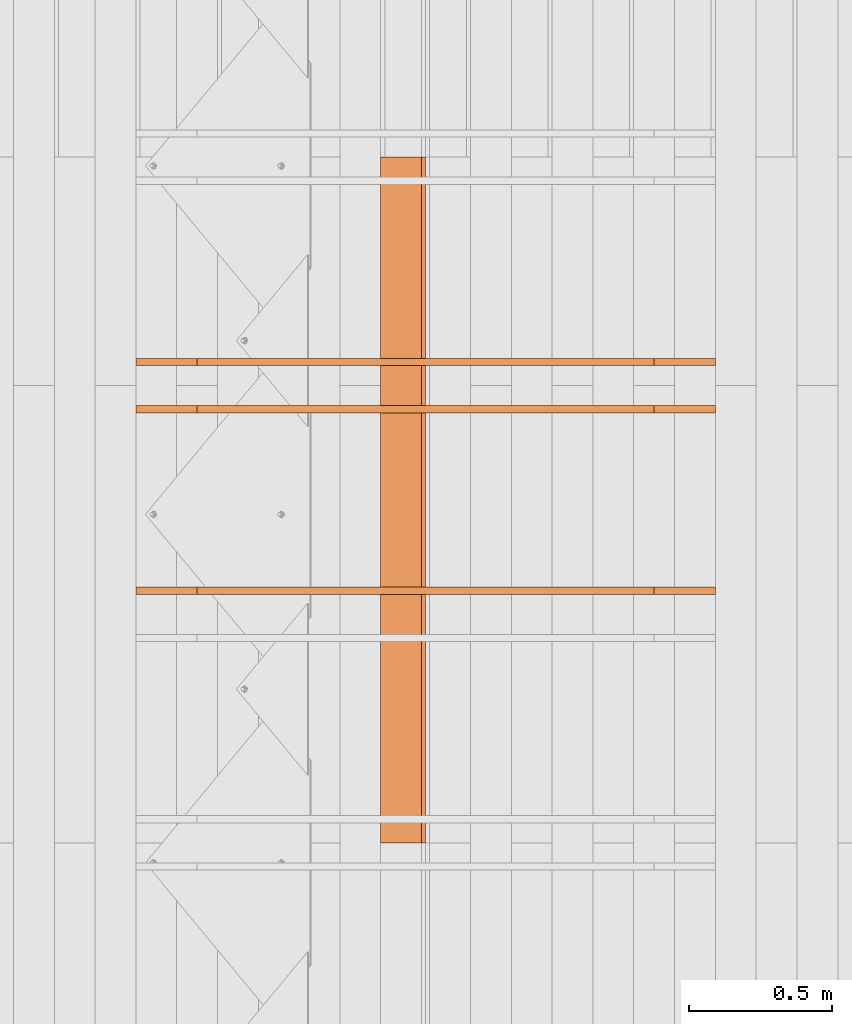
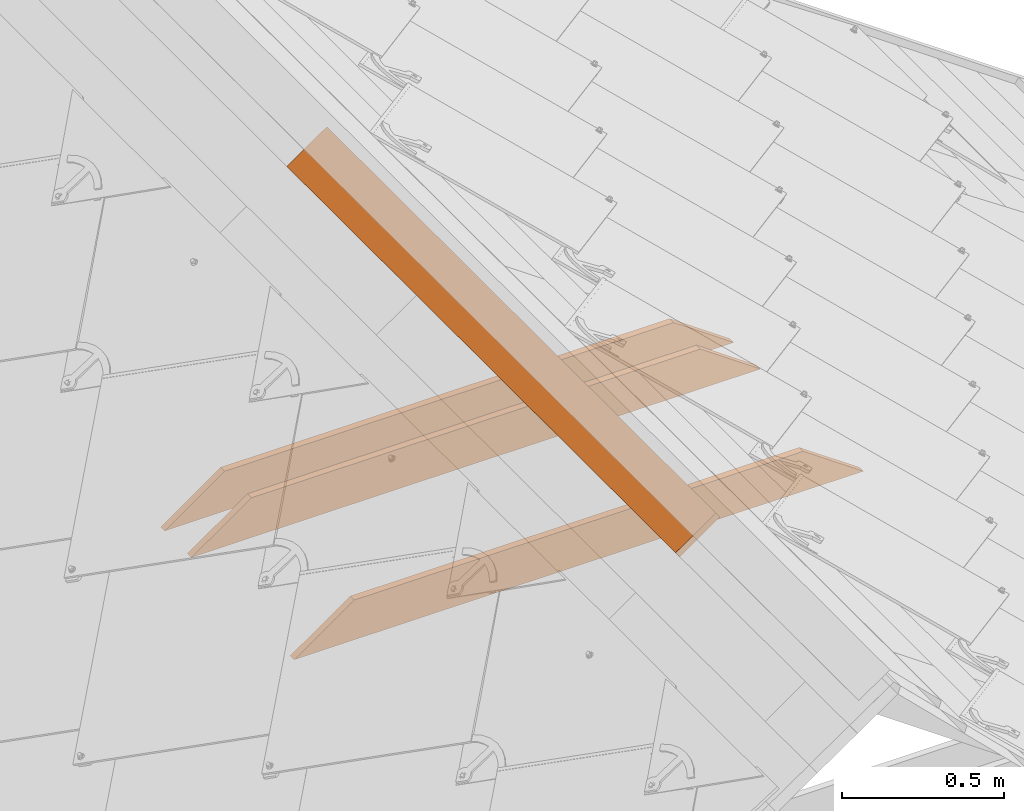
# One storey, part 58 of 133: 4 proxies, 1 element without a shape of its own.
"""IFC2X3 building model written with IfcOpenShell, lengths in millimetres."""

from ifc_helpers import new_model, entity, si_unit, converted_unit, derived_unit, direction, frame, frame_2d, origin, place, context, subcontext, project, spatial, polyline, rectangle, outline, extrude, source, transform, mapped, material, type_object, type_shapes, element, aggregate, save


model = new_model("IFC2X3")

# Units and contexts
model_context = context("Model", 3, precision=0.01, world=origin(), true_north=direction((6.12303176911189e-17, 1.0)))
body_context = subcontext(model_context, "Body", "Model", "MODEL_VIEW")
ifc_project = project(units=[si_unit("LENGTHUNIT", "METRE", prefix="MILLI"), si_unit("AREAUNIT", "SQUARE_METRE"), si_unit("VOLUMEUNIT", "CUBIC_METRE"), converted_unit("PLANEANGLEUNIT", "DEGREE", entity("IfcRatioMeasure", 0.0174532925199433), si_unit("PLANEANGLEUNIT", "RADIAN"), dimensions=[0, 0, 0, 0, 0, 0, 0]), si_unit("MASSUNIT", "GRAM", prefix="KILO"), derived_unit("MASSDENSITYUNIT", [(si_unit("MASSUNIT", "GRAM", prefix="KILO"), 1), (si_unit("LENGTHUNIT", "METRE"), -3)]), si_unit("TIMEUNIT", "SECOND"), si_unit("FREQUENCYUNIT", "HERTZ"), si_unit("THERMODYNAMICTEMPERATUREUNIT", "DEGREE_CELSIUS"), derived_unit("THERMALTRANSMITTANCEUNIT", [(si_unit("MASSUNIT", "GRAM", prefix="KILO"), 1), (si_unit("THERMODYNAMICTEMPERATUREUNIT", "KELVIN"), -1), (si_unit("TIMEUNIT", "SECOND"), -3)]), derived_unit("VOLUMETRICFLOWRATEUNIT", [(si_unit("LENGTHUNIT", "METRE"), 3), (si_unit("TIMEUNIT", "SECOND"), -1)]), si_unit("ELECTRICCURRENTUNIT", "AMPERE"), si_unit("ELECTRICVOLTAGEUNIT", "VOLT"), si_unit("POWERUNIT", "WATT"), si_unit("FORCEUNIT", "NEWTON", prefix="KILO"), si_unit("ILLUMINANCEUNIT", "LUX"), si_unit("LUMINOUSFLUXUNIT", "LUMEN"), si_unit("LUMINOUSINTENSITYUNIT", "CANDELA"), derived_unit("USERDEFINED", [(si_unit("MASSUNIT", "GRAM", prefix="KILO"), -1), (si_unit("LENGTHUNIT", "METRE"), -2), (si_unit("TIMEUNIT", "SECOND"), 3), (si_unit("LUMINOUSFLUXUNIT", "LUMEN"), 1)]), derived_unit("LINEARVELOCITYUNIT", [(si_unit("LENGTHUNIT", "METRE"), 1), (si_unit("TIMEUNIT", "SECOND"), -1)]), si_unit("PRESSUREUNIT", "PASCAL"), derived_unit("USERDEFINED", [(si_unit("LENGTHUNIT", "METRE"), -2), (si_unit("MASSUNIT", "GRAM", prefix="KILO"), 1), (si_unit("TIMEUNIT", "SECOND"), -2)])], contexts=[model_context])

# Site, building, storey
site_placement = place(None, origin())
site = spatial("IfcSite", under=ifc_project, at=site_placement, Name="Default", CompositionType="ELEMENT")
building_placement = place(site_placement, origin())
building = spatial("IfcBuilding", under=site, at=building_placement, CompositionType="ELEMENT")
storey_placement = place(building_placement, origin())
storey = spatial("IfcBuildingStorey", under=building, at=storey_placement, Name="Level 1", CompositionType="ELEMENT", Elevation=0.0)

# Assembly, proxies
assembly_placement = place(storey_placement, origin())
assembly = element("IfcElementAssembly", 1, at=assembly_placement, inside=storey, Name="Structural Framing Assembly:Roof Construction Assembly", ObjectType="Structural Framing Assembly:Roof Construction Assembly", AssemblyPlace="NOTDEFINED", PredefinedType="USERDEFINED")
ifc_material = material(Name="Wood - Generic - Wood For Showcase")
building_element_proxy_type_1 = type_object("IfcBuildingElementProxyType", Name="Structural Framing 15", PredefinedType="NOTDEFINED", material=ifc_material)
shared_shape_1 = source(origin(), body_context, "Body", "SweptSolid", [
    extrude(rectangle(XDim=24.9999999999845, YDim=174.344679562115, at=frame_2d((-1.77635683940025e-13, -4.54747350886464e-13), x_axis=(0.0, 1.0))), frame((1128.20180147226, 1525.55080214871, 2760.23940055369), z_axis=(0.0, 1.0, 0.0), x_axis=(-0.819152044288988, 0.0, -0.573576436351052)), (0.0, 0.0, 1.0), 2400.0),
])
type_shapes(building_element_proxy_type_1, [shared_shape_1])
proxy_1_placement = place(assembly_placement, frame((0.0, -2470.0, 0.0)))
proxy_1 = element("IfcBuildingElementProxy", 2, at=proxy_1_placement, type_object=building_element_proxy_type_1, material=ifc_material, Name="Structural Framing 16:Structural Framing 15", ObjectType="Structural Framing 16:Structural Framing 15", context=body_context, shape_type="MappedRepresentation", body=[
    mapped(shared_shape_1, transform((0.0, 0.0, 0.0), scale=1.0)),
])
building_element_proxy_type_2 = type_object("IfcBuildingElementProxyType", Name="Structural Framing 296", PredefinedType="NOTDEFINED", material=ifc_material)
shared_shape_2 = source(origin(), body_context, "Body", "SweptSolid", [
    extrude(outline(polyline([(-1014.04699829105, -75.0), (1014.04699829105, -75.0), (799.824797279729, 75.0), (-799.824797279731, 75.0), (-1014.04699829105, -75.0)])), frame((1206.77890726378, 3760.55080214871, 2164.95664769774), z_axis=(0.0, 1.0, 0.0), x_axis=(-1.0, 0.0, 0.0)), (0.0, 0.0, 1.0), 24.9999999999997),
])
type_shapes(building_element_proxy_type_2, [shared_shape_2])
proxy_2_placement = place(assembly_placement, frame((0.0, -3200.0, 0.0)))
proxy_2 = element("IfcBuildingElementProxy", 3, at=proxy_2_placement, type_object=building_element_proxy_type_2, material=ifc_material, Name="Structural Framing 303:Structural Framing 296", ObjectType="Structural Framing 303:Structural Framing 296", context=body_context, shape_type="MappedRepresentation", body=[
    mapped(shared_shape_2, transform((0.0, 0.0, 0.0), scale=1.0)),
])
building_element_proxy_type_3 = type_object("IfcBuildingElementProxyType", Name="Structural Framing 296", PredefinedType="NOTDEFINED", material=ifc_material)
shared_shape_3 = source(origin(), body_context, "Body", "SweptSolid", [
    extrude(outline(polyline([(-1014.04699829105, -75.0), (1014.04699829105, -75.0), (799.824797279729, 75.0), (-799.824797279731, 75.0), (-1014.04699829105, -75.0)])), frame((1206.77890726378, 2325.55080214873, 2164.95664769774), z_axis=(0.0, 1.0, 0.0), x_axis=(-1.0, 0.0, 0.0)), (0.0, 0.0, 1.0), 25.0),
])
type_shapes(building_element_proxy_type_3, [shared_shape_3])
proxy_3_placement = place(assembly_placement, frame((0.0, -1600.0, 0.0)))
proxy_3 = element("IfcBuildingElementProxy", 4, at=proxy_3_placement, type_object=building_element_proxy_type_3, material=ifc_material, Name="Structural Framing 304:Structural Framing 296", ObjectType="Structural Framing 304:Structural Framing 296", context=body_context, shape_type="MappedRepresentation", body=[
    mapped(shared_shape_3, transform((0.0, 0.0, 0.0), scale=1.0)),
])
building_element_proxy_type_4 = type_object("IfcBuildingElementProxyType", Name="Structural Framing 296", PredefinedType="NOTDEFINED", material=ifc_material)
shared_shape_4 = source(origin(), body_context, "Body", "SweptSolid", [
    extrude(outline(polyline([(-1014.04699829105, -75.0), (1014.04699829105, -75.0), (799.824797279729, 75.0), (-799.824797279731, 75.0), (-1014.04699829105, -75.0)])), frame((1206.77890726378, 2325.55080214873, 2164.95664769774), z_axis=(0.0, 1.0, 0.0), x_axis=(-1.0, 0.0, 0.0)), (0.0, 0.0, 1.0), 25.0),
])
type_shapes(building_element_proxy_type_4, [shared_shape_4])
proxy_4_placement = place(assembly_placement, frame((0.0, -2400.0, 0.0)))
proxy_4 = element("IfcBuildingElementProxy", 5, at=proxy_4_placement, type_object=building_element_proxy_type_4, material=ifc_material, Name="Structural Framing 306:Structural Framing 296", ObjectType="Structural Framing 306:Structural Framing 296", context=body_context, shape_type="MappedRepresentation", body=[
    mapped(shared_shape_4, transform((0.0, 0.0, 0.0), scale=1.0)),
])
aggregate(assembly, [proxy_1, proxy_2, proxy_3, proxy_4])

save(model, "model.ifc")
